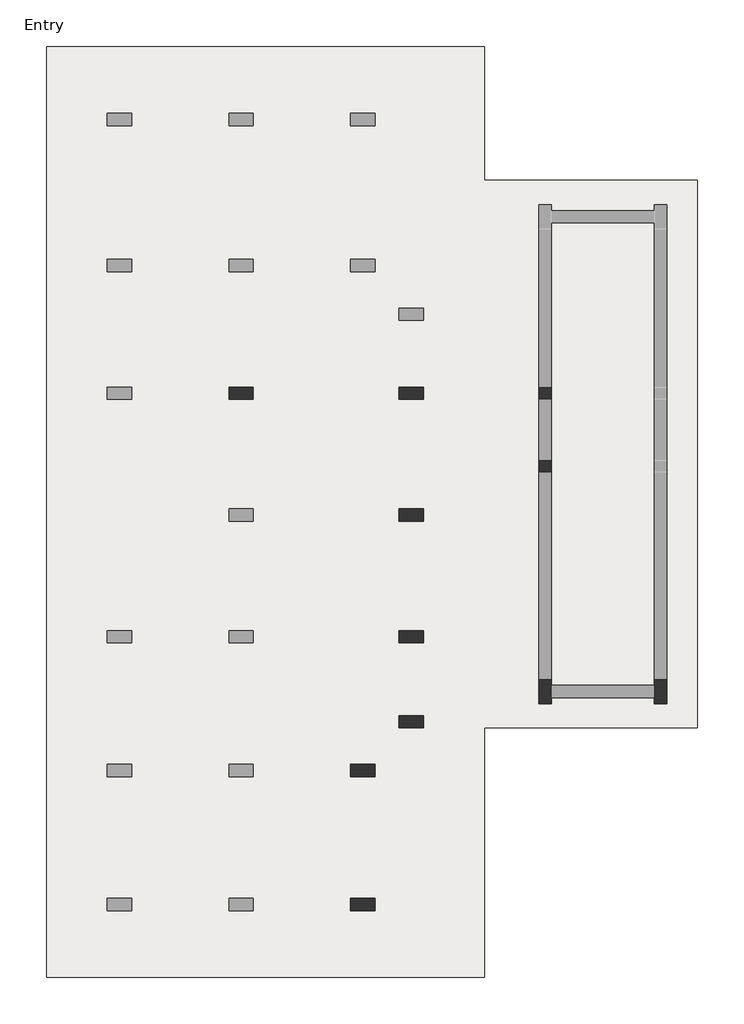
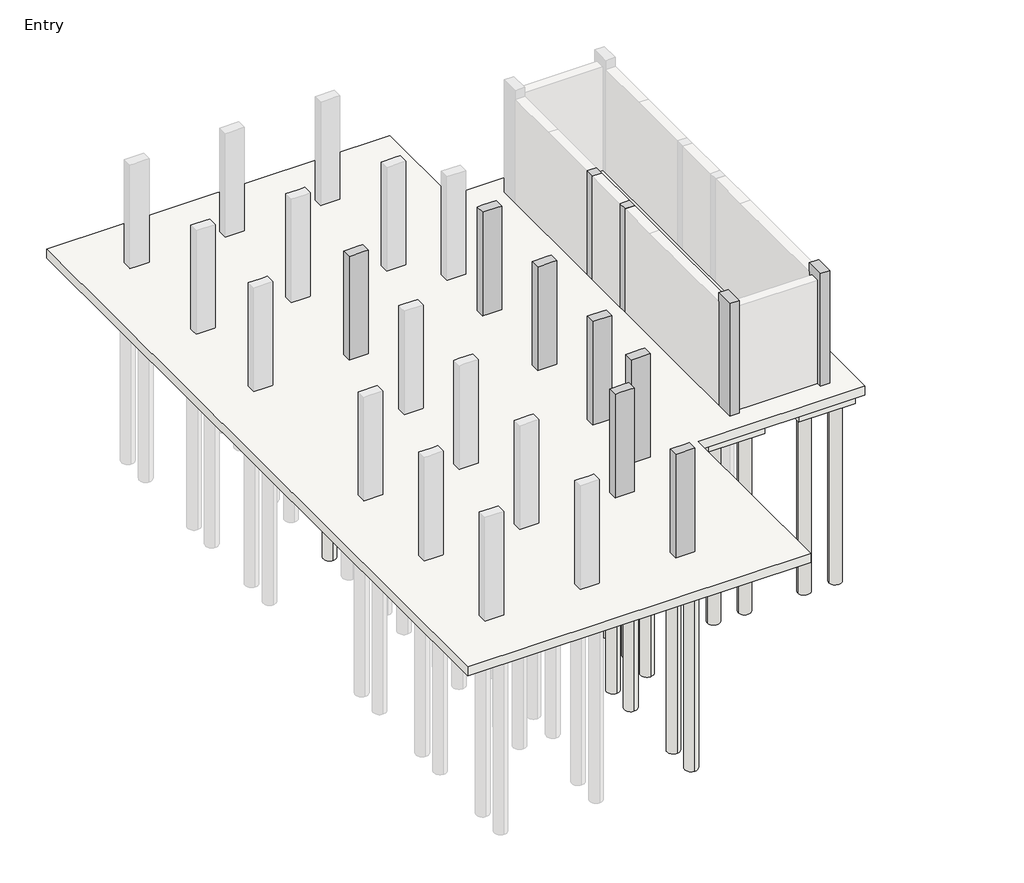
# One storey, part 2 of 3: 35 slabs, 11 columns.
"""IFC4 building model written with IfcOpenShell, lengths in millimetres."""

from ifc_helpers import new_model, si_unit, point, frame, frame_2d, origin, origin_with_axes, place, context, project, spatial, polyline, circle_curve, trimmed, segment, composite_curve, outline, extrude, faceted_brep, element, save

model = new_model("IFC4")

# Units and contexts
model_context = context("Model", 3, world=origin())
ifc_project = project(units=[si_unit("LENGTHUNIT", "METRE", prefix="MILLI")], contexts=[model_context])

# Site, building, storey
site = spatial("IfcSite", under=ifc_project)
building = spatial("IfcBuilding", under=site)
storey = spatial("IfcBuildingStorey", under=building, Name="Entry", Elevation=0.0)

# Columns
placement = place(None, origin())
element("IfcColumn", 1, ObjectType="Concrete-Rectangular-Column : 12 x 24", at=placement, inside=storey, context=model_context, shape_type="Brep", body=[
    faceted_brep([(-17912.8093661, 15543.5691779, 0.0), (-17303.2093661, 15543.5691779, 0.0), (-17303.2093661, 15238.7691779, 0.0), (-17912.8093661, 15238.7691779, 0.0), (-17912.8093661, 15543.5691779, 3505.2), (-17760.4093661, 15543.5691779, 3505.2), (-17455.6093661, 15543.5691779, 3505.2), (-17303.2093661, 15543.5691779, 3505.2), (-17303.2093661, 15543.5691779, 2895.6), (-17912.8093661, 15543.5691779, 2895.6), (-17303.2093661, 15238.7691779, 3505.2), (-17303.2093661, 15238.7691779, 2895.6), (-17455.6093661, 15238.7691779, 3505.2), (-17760.4093661, 15238.7691779, 3505.2), (-17912.8093661, 15238.7691779, 3505.2), (-17912.8093661, 15238.7691779, 2895.6)], [[[0, 1, 2, 3]], [[4, 5, 6, 7, 8, 1, 0, 9]], [[7, 10, 11, 2, 1, 8]], [[10, 12, 13, 14, 15, 3, 2, 11]], [[14, 4, 9, 0, 3, 15]], [[4, 14, 13, 12, 10, 7, 6, 5]]]),
])
element("IfcColumn", 2, ObjectType="Concrete-Rectangular-Column : 12 x 24", at=placement, inside=storey, context=model_context, shape_type="Brep", body=[
    faceted_brep([(-13645.6093661, 15543.5691779, 0.0), (-13036.0093661, 15543.5691779, 0.0), (-13036.0093661, 15238.7691779, 0.0), (-13645.6093661, 15238.7691779, 0.0), (-13645.6093661, 15543.5691779, 3505.2), (-13493.2093661, 15543.5691779, 3505.2), (-13188.4093661, 15543.5691779, 3505.2), (-13036.0093661, 15543.5691779, 3505.2), (-13036.0093661, 15543.5691779, 2895.6), (-13645.6093661, 15543.5691779, 2895.6), (-13036.0093661, 15238.7691779, 3505.2), (-13036.0093661, 15238.7691779, 2895.6), (-13188.4093661, 15238.7691779, 3505.2), (-13493.2093661, 15238.7691779, 3505.2), (-13645.6093661, 15238.7691779, 3505.2), (-13645.6093661, 15238.7691779, 2895.6)], [[[0, 1, 2, 3]], [[4, 5, 6, 7, 8, 1, 0, 9]], [[7, 10, 11, 2, 1, 8]], [[10, 12, 13, 14, 15, 3, 2, 11]], [[14, 4, 9, 0, 3, 15]], [[4, 14, 13, 12, 10, 7, 6, 5]]]),
])
element("IfcColumn", 3, ObjectType="Concrete-Rectangular-Column : 12 x 24", at=placement, inside=storey, context=model_context, shape_type="SweptSolid", body=[
    extrude(outline(polyline([(-9835.6093661, 15238.7691779), (-10140.4093661, 15238.7691779), (-10140.4093661, 15543.5691779), (-9835.6093661, 15543.5691779), (-9835.6093661, 15238.7691779)])), origin_with_axes(), (0.0, 0.0, 1.0), 3505.2),
])
element("IfcColumn", 4, ObjectType="Concrete-Rectangular-Column : 12 x 24", at=placement, inside=storey, context=model_context, shape_type="SweptSolid", body=[
    extrude(outline(polyline([(-9835.6093661, 13409.9691779), (-10140.4093661, 13409.9691779), (-10140.4093661, 13714.7691779), (-9835.6093661, 13714.7691779), (-9835.6093661, 13409.9691779)])), origin_with_axes(), (0.0, 0.0, 1.0), 3505.2),
])
element("IfcColumn", 5, ObjectType="Concrete-Rectangular-Column : 12 x 24", at=placement, inside=storey, context=model_context, shape_type="Brep", body=[
    faceted_brep([(-13645.6093661, 12495.5691779, 0.0), (-13036.0093661, 12495.5691779, 0.0), (-13036.0093661, 12190.7691779, 0.0), (-13645.6093661, 12190.7691779, 0.0), (-13645.6093661, 12495.5691779, 3505.2), (-13493.2093661, 12495.5691779, 3505.2), (-13188.4093661, 12495.5691779, 3505.2), (-13036.0093661, 12495.5691779, 3505.2), (-13645.6093661, 12495.5691779, 2895.6), (-13036.0093661, 12190.7691779, 3505.2), (-13188.4093661, 12190.7691779, 3505.2), (-13493.2093661, 12190.7691779, 3505.2), (-13645.6093661, 12190.7691779, 3505.2), (-13645.6093661, 12190.7691779, 2895.6)], [[[0, 1, 2, 3]], [[4, 5, 6, 7, 1, 0, 8]], [[7, 9, 2, 1]], [[9, 10, 11, 12, 13, 3, 2]], [[12, 4, 8, 0, 3, 13]], [[4, 12, 11, 10, 9, 7, 6, 5]]]),
])
element("IfcColumn", 6, ObjectType="Concrete-Rectangular-Column : 12 x 24", at=placement, inside=storey, context=model_context, shape_type="Brep", body=[
    faceted_brep([(-13645.6093661, 9447.5691779, 0.0), (-13036.0093661, 9447.5691779, 0.0), (-13036.0093661, 9142.7691779, 0.0), (-13645.6093661, 9142.7691779, 0.0), (-13645.6093661, 9447.5691779, 3505.2), (-13493.2093661, 9447.5691779, 3505.2), (-13188.4093661, 9447.5691779, 3505.2), (-13036.0093661, 9447.5691779, 3505.2), (-13645.6093661, 9447.5691779, 2895.6), (-13036.0093661, 9142.7691779, 3505.2), (-13188.4093661, 9142.7691779, 3505.2), (-13493.2093661, 9142.7691779, 3505.2), (-13645.6093661, 9142.7691779, 3505.2), (-13645.6093661, 9142.7691779, 2895.6)], [[[0, 1, 2, 3]], [[4, 5, 6, 7, 1, 0, 8]], [[7, 9, 2, 1]], [[9, 10, 11, 12, 13, 3, 2]], [[12, 4, 8, 0, 3, 13]], [[4, 12, 11, 10, 9, 7, 6, 5]]]),
])
element("IfcColumn", 7, ObjectType="Concrete-Rectangular-Column : 12 x 24", at=placement, inside=storey, context=model_context, shape_type="Brep", body=[
    faceted_brep([(-14864.8093661, 2741.9691779, 0.0), (-14255.2093661, 2741.9691779, 0.0), (-14255.2093661, 2437.1691779, 0.0), (-14864.8093661, 2437.1691779, 0.0), (-14864.8093661, 2741.9691779, 3505.2), (-14712.4093661, 2741.9691779, 3505.2), (-14407.6093661, 2741.9691779, 3505.2), (-14255.2093661, 2741.9691779, 3505.2), (-14864.8093661, 2741.9691779, 2895.6), (-14255.2093661, 2437.1691779, 3505.2), (-14864.8093661, 2437.1691779, 3505.2), (-14864.8093661, 2437.1691779, 2895.6)], [[[0, 1, 2, 3]], [[4, 5, 6, 7, 1, 0, 8]], [[7, 9, 2, 1]], [[9, 10, 11, 3, 2]], [[10, 4, 8, 0, 3, 11]], [[4, 10, 9, 7, 6, 5]]]),
])
element("IfcColumn", 8, ObjectType="Concrete-Rectangular-Column : 12 x 24", at=placement, inside=storey, context=model_context, shape_type="Brep", body=[
    faceted_brep([(-14864.8093661, 6094.7691779, 0.0), (-14255.2093661, 6094.7691779, 0.0), (-14255.2093661, 5789.9691779, 0.0), (-14864.8093661, 5789.9691779, 0.0), (-14864.8093661, 6094.7691779, 3505.2), (-14712.4093661, 6094.7691779, 3505.2), (-14407.6093661, 6094.7691779, 3505.2), (-14255.2093661, 6094.7691779, 3505.2), (-14864.8093661, 6094.7691779, 2895.6), (-14255.2093661, 5789.9691779, 3505.2), (-14407.6093661, 5789.9691779, 3505.2), (-14712.4093661, 5789.9691779, 3505.2), (-14864.8093661, 5789.9691779, 3505.2), (-14864.8093661, 5789.9691779, 2895.6)], [[[0, 1, 2, 3]], [[4, 5, 6, 7, 1, 0, 8]], [[7, 9, 2, 1]], [[9, 10, 11, 12, 13, 3, 2]], [[12, 4, 8, 0, 3, 13]], [[4, 12, 11, 10, 9, 7, 6, 5]]]),
])
element("IfcColumn", 9, ObjectType="Concrete-Rectangular-Column : 12 x 24", at=placement, inside=storey, context=model_context, shape_type="Brep", body=[
    faceted_brep([(-13645.6093661, 7313.9691779, 0.0), (-13036.0093661, 7313.9691779, 0.0), (-13036.0093661, 7009.1691779, 0.0), (-13645.6093661, 7009.1691779, 0.0), (-13645.6093661, 7313.9691779, 3505.2), (-13493.2093661, 7313.9691779, 3505.2), (-13188.4093661, 7313.9691779, 3505.2), (-13036.0093661, 7313.9691779, 3505.2), (-13645.6093661, 7313.9691779, 2895.6), (-13036.0093661, 7009.1691779, 3505.2), (-13645.6093661, 7009.1691779, 3505.2), (-13645.6093661, 7009.1691779, 2895.6)], [[[0, 1, 2, 3]], [[4, 5, 6, 7, 1, 0, 8]], [[7, 9, 2, 1]], [[9, 10, 11, 3, 2]], [[10, 4, 8, 0, 3, 11]], [[4, 10, 9, 7, 6, 5]]]),
])
element("IfcColumn", 10, ObjectType="Concrete-Rectangular-Column : 12 x 24", at=placement, inside=storey, context=model_context, shape_type="Brep", body=[
    faceted_brep([(-10140.4093661, 7618.7691779, 0.0), (-10140.4093661, 8228.3691779, 0.0), (-9835.6093661, 8228.3691779, 0.0), (-9835.6093661, 8075.9691779, 0.0), (-9835.6093661, 7771.1691779, 0.0), (-9835.6093661, 7618.7691779, 0.0), (-10140.4093661, 7618.7691779, 3810.0), (-10140.4093661, 8228.3691779, 3810.0), (-10140.4093661, 8228.3691779, 3505.2), (-9835.6093661, 8228.3691779, 3810.0), (-9835.6093661, 8228.3691779, 3505.2), (-9835.6093661, 7618.7691779, 3810.0)], [[[0, 1, 2, 3, 4, 5]], [[6, 7, 8, 1, 0]], [[7, 9, 10, 2, 1, 8]], [[9, 11, 5, 4, 3, 2, 10]], [[11, 6, 0, 5]], [[6, 11, 9, 7]]]),
])
element("IfcColumn", 11, ObjectType="Concrete-Rectangular-Column : 12 x 24", at=placement, inside=storey, context=model_context, shape_type="Brep", body=[
    faceted_brep([(-7244.8093661, 7618.7691779, 0.0), (-7244.8093661, 7771.1691779, 0.0), (-7244.8093661, 8075.9691779, 0.0), (-7244.8093661, 8228.3691779, 0.0), (-6940.0093661, 8228.3691779, 0.0), (-6940.0093661, 7618.7691779, 0.0), (-7244.8093661, 7618.7691779, 3810.0), (-7244.8093661, 8228.3691779, 3810.0), (-7244.8093661, 8228.3691779, 3505.2), (-6940.0093661, 8228.3691779, 3810.0), (-6940.0093661, 8228.3691779, 3505.2), (-6940.0093661, 7618.7691779, 3810.0)], [[[0, 1, 2, 3, 4, 5]], [[6, 7, 8, 3, 2, 1, 0]], [[7, 9, 10, 4, 3, 8]], [[9, 11, 5, 4, 10]], [[11, 6, 0, 5]], [[6, 11, 9, 7]]]),
])

# Slabs
element("IfcSlab", 12, ObjectType="12\" Foundation Slab", at=placement, inside=storey, context=model_context, shape_type="SweptSolid", body=[
    extrude(outline(polyline([(-11512.0093661, 24077.9691779), (-11512.0093661, 20725.1691779), (-6178.0093661, 20725.1691779), (-6178.0093661, 7009.1691779), (-11512.0093661, 7009.1691779), (-11512.0093661, 760.7691779), (-22484.8093661, 760.7691779), (-22484.8093661, 24077.9691779), (-11512.0093661, 24077.9691779)])), frame((0.0, 0.0, -304.8), z_axis=(0.0, 0.0, 1.0), x_axis=(1.0, 0.0, 0.0)), (0.0, 0.0, 1.0), 304.8),
])
element("IfcSlab", 13, ObjectType="Pile Cap-2 Pile : 31\"x61\"x35\"", at=placement, inside=storey, context=model_context, shape_type="SweptSolid", body=[
    extrude(outline(polyline([(-14966.4093661, 3491.2691779), (-14153.6093661, 3491.2691779), (-14153.6093661, 1687.8691779), (-14966.4093661, 1687.8691779), (-14966.4093661, 3491.2691779)])), frame((0.0, 0.0, -889.0), z_axis=(0.0, 0.0, 1.0), x_axis=(1.0, 0.0, 0.0)), (0.0, 0.0, 1.0), 584.2),
])
element("IfcSlab", 14, ObjectType="Pile Cap-2 Pile : 31\"x61\"x35\"", at=placement, inside=storey, context=model_context, shape_type="SweptSolid", body=[
    extrude(outline(polyline([(-14966.4093661, 6844.0691779), (-14153.6093661, 6844.0691779), (-14153.6093661, 5040.6691779), (-14966.4093661, 5040.6691779), (-14966.4093661, 6844.0691779)])), frame((0.0, 0.0, -889.0), z_axis=(0.0, 0.0, 1.0), x_axis=(1.0, 0.0, 0.0)), (0.0, 0.0, 1.0), 584.2),
])
element("IfcSlab", 15, ObjectType="Pile Cap-2 Pile : 31\"x61\"x35\"", at=placement, inside=storey, context=model_context, shape_type="SweptSolid", body=[
    extrude(outline(polyline([(-13747.2093661, 10196.8691779), (-12934.4093661, 10196.8691779), (-12934.4093661, 8393.4691779), (-13747.2093661, 8393.4691779), (-13747.2093661, 10196.8691779)])), frame((0.0, 0.0, -889.0), z_axis=(0.0, 0.0, 1.0), x_axis=(1.0, 0.0, 0.0)), (0.0, 0.0, 1.0), 584.2),
])
element("IfcSlab", 16, ObjectType="Pile Cap-2 Pile : 31\"x61\"x35\"", at=placement, inside=storey, context=model_context, shape_type="SweptSolid", body=[
    extrude(outline(polyline([(-13747.2093661, 13244.8691779), (-12934.4093661, 13244.8691779), (-12934.4093661, 11441.4691779), (-13747.2093661, 11441.4691779), (-13747.2093661, 13244.8691779)])), frame((0.0, 0.0, -889.0), z_axis=(0.0, 0.0, 1.0), x_axis=(1.0, 0.0, 0.0)), (0.0, 0.0, 1.0), 584.2),
])
element("IfcSlab", 17, ObjectType="Pile Cap-2 Pile : 31\"x61\"x35\"", at=placement, inside=storey, context=model_context, shape_type="SweptSolid", body=[
    extrude(outline(polyline([(-13747.2093661, 16292.8691779), (-12934.4093661, 16292.8691779), (-12934.4093661, 14489.4691779), (-13747.2093661, 14489.4691779), (-13747.2093661, 16292.8691779)])), frame((0.0, 0.0, -889.0), z_axis=(0.0, 0.0, 1.0), x_axis=(1.0, 0.0, 0.0)), (0.0, 0.0, 1.0), 584.2),
])
element("IfcSlab", 18, ObjectType="Pile Cap-2 Pile : 31\"x61\"x35\"", at=placement, inside=storey, context=model_context, shape_type="SweptSolid", body=[
    extrude(outline(polyline([(-10889.7093661, 7517.1691779), (-10889.7093661, 8329.9691779), (-9086.3093661, 8329.9691779), (-9086.3093661, 7517.1691779), (-10889.7093661, 7517.1691779)])), frame((0.0, 0.0, -889.0), z_axis=(0.0, 0.0, 1.0), x_axis=(1.0, 0.0, 0.0)), (0.0, 0.0, 1.0), 584.2),
])
element("IfcSlab", 19, ObjectType="Pile Cap-2 Pile : 31\"x61\"x35\"", at=placement, inside=storey, context=model_context, shape_type="SweptSolid", body=[
    extrude(outline(polyline([(-7994.1093661, 7517.1691779), (-7994.1093661, 8329.9691779), (-6190.7093661, 8329.9691779), (-6190.7093661, 7517.1691779), (-7994.1093661, 7517.1691779)])), frame((0.0, 0.0, -889.0), z_axis=(0.0, 0.0, 1.0), x_axis=(1.0, 0.0, 0.0)), (0.0, 0.0, 1.0), 584.2),
])
element("IfcSlab", 20, ObjectType="Pile Cap-2 Pile : 31\"x61\"x35\"", at=placement, inside=storey, context=model_context, shape_type="SweptSolid", body=[
    extrude(outline(polyline([(-10394.4093661, 14464.0691779), (-9581.6093661, 14464.0691779), (-9581.6093661, 12660.6691779), (-10394.4093661, 12660.6691779), (-10394.4093661, 14464.0691779)])), frame((0.0, 0.0, -889.0), z_axis=(0.0, 0.0, 1.0), x_axis=(1.0, 0.0, 0.0)), (0.0, 0.0, 1.0), 584.2),
])
element("IfcSlab", 21, ObjectType="Pile Cap-2 Pile : 31\"x61\"x35\"", at=placement, inside=storey, context=model_context, shape_type="SweptSolid", body=[
    extrude(outline(polyline([(-10394.4093661, 16292.8691779), (-9581.6093661, 16292.8691779), (-9581.6093661, 14489.4691779), (-10394.4093661, 14489.4691779), (-10394.4093661, 16292.8691779)])), frame((0.0, 0.0, -889.0), z_axis=(0.0, 0.0, 1.0), x_axis=(1.0, 0.0, 0.0)), (0.0, 0.0, 1.0), 584.2),
])
element("IfcSlab", 22, ObjectType="Pile Cap-2 Pile : 31\"x61\"x35\"", at=placement, inside=storey, context=model_context, shape_type="SweptSolid", body=[
    extrude(outline(polyline([(-13747.2093661, 8063.2691779), (-12934.4093661, 8063.2691779), (-12934.4093661, 6259.8691779), (-13747.2093661, 6259.8691779), (-13747.2093661, 8063.2691779)])), frame((0.0, 0.0, -889.0), z_axis=(0.0, 0.0, 1.0), x_axis=(1.0, 0.0, 0.0)), (0.0, 0.0, 1.0), 584.2),
])
element("IfcSlab", 23, ObjectType="Pile Cap-4 Pile : 72\"x72\"x35\"", at=placement, inside=storey, context=model_context, shape_type="SweptSolid", body=[
    extrude(outline(polyline([(-18522.4093661, 16305.5691779), (-16693.6093661, 16305.5691779), (-16693.6093661, 14476.7691779), (-18522.4093661, 14476.7691779), (-18522.4093661, 16305.5691779)])), frame((0.0, 0.0, -889.0), z_axis=(0.0, 0.0, 1.0), x_axis=(1.0, 0.0, 0.0)), (0.0, 0.0, 1.0), 584.2),
])
element("IfcSlab", 24, ObjectType="Pile-Steel Pipe : 16\" Diameter", at=placement, inside=storey, context=model_context, shape_type="SweptSolid", body=[
    extrude(outline(composite_curve([segment(trimmed(circle_curve(frame_2d((-17074.6093661, 14857.7691779)), 203.2), [point((-17074.6093661, 14654.5691779))], [point((-17074.6093661, 15060.9691779))], False, "CARTESIAN"), True, "CONTINUOUS"), segment(trimmed(circle_curve(frame_2d((-17074.6093661, 14857.7691779)), 203.2), [point((-17074.6093661, 15060.9691779))], [point((-17074.6093661, 14654.5691779))], False, "CARTESIAN"), True, "CONTINUOUS")], self_intersect=False)), frame((0.0, 0.0, -6985.0), z_axis=(0.0, 0.0, 1.0), x_axis=(1.0, 0.0, 0.0)), (0.0, 0.0, 1.0), 6096.0),
])
element("IfcSlab", 25, ObjectType="Pile-Steel Pipe : 16\" Diameter", at=placement, inside=storey, context=model_context, shape_type="SweptSolid", body=[
    extrude(outline(composite_curve([segment(trimmed(circle_curve(frame_2d((-17074.6093661, 15924.5691779)), 203.2), [point((-17074.6093661, 15721.3691779))], [point((-17074.6093661, 16127.7691779))], False, "CARTESIAN"), True, "CONTINUOUS"), segment(trimmed(circle_curve(frame_2d((-17074.6093661, 15924.5691779)), 203.2), [point((-17074.6093661, 16127.7691779))], [point((-17074.6093661, 15721.3691779))], False, "CARTESIAN"), True, "CONTINUOUS")], self_intersect=False)), frame((0.0, 0.0, -6985.0), z_axis=(0.0, 0.0, 1.0), x_axis=(1.0, 0.0, 0.0)), (0.0, 0.0, 1.0), 6096.0),
])
element("IfcSlab", 26, ObjectType="Pile-Steel Pipe : 16\" Diameter", at=placement, inside=storey, context=model_context, shape_type="SweptSolid", body=[
    extrude(outline(composite_curve([segment(trimmed(circle_curve(frame_2d((-18141.4093661, 15924.5691779)), 203.2), [point((-18141.4093661, 15721.3691779))], [point((-18141.4093661, 16127.7691779))], False, "CARTESIAN"), True, "CONTINUOUS"), segment(trimmed(circle_curve(frame_2d((-18141.4093661, 15924.5691779)), 203.2), [point((-18141.4093661, 16127.7691779))], [point((-18141.4093661, 15721.3691779))], False, "CARTESIAN"), True, "CONTINUOUS")], self_intersect=False)), frame((0.0, 0.0, -6985.0), z_axis=(0.0, 0.0, 1.0), x_axis=(1.0, 0.0, 0.0)), (0.0, 0.0, 1.0), 6096.0),
])
element("IfcSlab", 27, ObjectType="Pile-Steel Pipe : 16\" Diameter", at=placement, inside=storey, context=model_context, shape_type="SweptSolid", body=[
    extrude(outline(composite_curve([segment(trimmed(circle_curve(frame_2d((-14560.0093661, 3084.8691779)), 203.2), [point((-14560.0093661, 2881.6691779))], [point((-14560.0093661, 3288.0691779))], False, "CARTESIAN"), True, "CONTINUOUS"), segment(trimmed(circle_curve(frame_2d((-14560.0093661, 3084.8691779)), 203.2), [point((-14560.0093661, 3288.0691779))], [point((-14560.0093661, 2881.6691779))], False, "CARTESIAN"), True, "CONTINUOUS")], self_intersect=False)), frame((0.0, 0.0, -6985.0), z_axis=(0.0, 0.0, 1.0), x_axis=(1.0, 0.0, 0.0)), (0.0, 0.0, 1.0), 6096.0),
])
element("IfcSlab", 28, ObjectType="Pile-Steel Pipe : 16\" Diameter", at=placement, inside=storey, context=model_context, shape_type="SweptSolid", body=[
    extrude(outline(composite_curve([segment(trimmed(circle_curve(frame_2d((-14560.0093661, 2094.2691779)), 203.2), [point((-14560.0093661, 1891.0691779))], [point((-14560.0093661, 2297.4691779))], False, "CARTESIAN"), True, "CONTINUOUS"), segment(trimmed(circle_curve(frame_2d((-14560.0093661, 2094.2691779)), 203.2), [point((-14560.0093661, 2297.4691779))], [point((-14560.0093661, 1891.0691779))], False, "CARTESIAN"), True, "CONTINUOUS")], self_intersect=False)), frame((0.0, 0.0, -6985.0), z_axis=(0.0, 0.0, 1.0), x_axis=(1.0, 0.0, 0.0)), (0.0, 0.0, 1.0), 6096.0),
])
element("IfcSlab", 29, ObjectType="Pile-Steel Pipe : 16\" Diameter", at=placement, inside=storey, context=model_context, shape_type="SweptSolid", body=[
    extrude(outline(composite_curve([segment(trimmed(circle_curve(frame_2d((-14560.0093661, 6437.6691779)), 203.2), [point((-14560.0093661, 6234.4691779))], [point((-14560.0093661, 6640.8691779))], False, "CARTESIAN"), True, "CONTINUOUS"), segment(trimmed(circle_curve(frame_2d((-14560.0093661, 6437.6691779)), 203.2), [point((-14560.0093661, 6640.8691779))], [point((-14560.0093661, 6234.4691779))], False, "CARTESIAN"), True, "CONTINUOUS")], self_intersect=False)), frame((0.0, 0.0, -6985.0), z_axis=(0.0, 0.0, 1.0), x_axis=(1.0, 0.0, 0.0)), (0.0, 0.0, 1.0), 6096.0),
])
element("IfcSlab", 30, ObjectType="Pile-Steel Pipe : 16\" Diameter", at=placement, inside=storey, context=model_context, shape_type="SweptSolid", body=[
    extrude(outline(composite_curve([segment(trimmed(circle_curve(frame_2d((-14560.0093661, 5447.0691779)), 203.2), [point((-14560.0093661, 5243.8691779))], [point((-14560.0093661, 5650.2691779))], False, "CARTESIAN"), True, "CONTINUOUS"), segment(trimmed(circle_curve(frame_2d((-14560.0093661, 5447.0691779)), 203.2), [point((-14560.0093661, 5650.2691779))], [point((-14560.0093661, 5243.8691779))], False, "CARTESIAN"), True, "CONTINUOUS")], self_intersect=False)), frame((0.0, 0.0, -6985.0), z_axis=(0.0, 0.0, 1.0), x_axis=(1.0, 0.0, 0.0)), (0.0, 0.0, 1.0), 6096.0),
])
element("IfcSlab", 31, ObjectType="Pile-Steel Pipe : 16\" Diameter", at=placement, inside=storey, context=model_context, shape_type="SweptSolid", body=[
    extrude(outline(composite_curve([segment(trimmed(circle_curve(frame_2d((-13340.8093661, 9790.4691779)), 203.2), [point((-13340.8093661, 9587.2691779))], [point((-13340.8093661, 9993.6691779))], False, "CARTESIAN"), True, "CONTINUOUS"), segment(trimmed(circle_curve(frame_2d((-13340.8093661, 9790.4691779)), 203.2), [point((-13340.8093661, 9993.6691779))], [point((-13340.8093661, 9587.2691779))], False, "CARTESIAN"), True, "CONTINUOUS")], self_intersect=False)), frame((0.0, 0.0, -6985.0), z_axis=(0.0, 0.0, 1.0), x_axis=(1.0, 0.0, 0.0)), (0.0, 0.0, 1.0), 6096.0),
])
element("IfcSlab", 32, ObjectType="Pile-Steel Pipe : 16\" Diameter", at=placement, inside=storey, context=model_context, shape_type="SweptSolid", body=[
    extrude(outline(composite_curve([segment(trimmed(circle_curve(frame_2d((-13340.8093661, 8799.8691779)), 203.2), [point((-13340.8093661, 8596.6691779))], [point((-13340.8093661, 9003.0691779))], False, "CARTESIAN"), True, "CONTINUOUS"), segment(trimmed(circle_curve(frame_2d((-13340.8093661, 8799.8691779)), 203.2), [point((-13340.8093661, 9003.0691779))], [point((-13340.8093661, 8596.6691779))], False, "CARTESIAN"), True, "CONTINUOUS")], self_intersect=False)), frame((0.0, 0.0, -6985.0), z_axis=(0.0, 0.0, 1.0), x_axis=(1.0, 0.0, 0.0)), (0.0, 0.0, 1.0), 6096.0),
])
element("IfcSlab", 33, ObjectType="Pile-Steel Pipe : 16\" Diameter", at=placement, inside=storey, context=model_context, shape_type="SweptSolid", body=[
    extrude(outline(composite_curve([segment(trimmed(circle_curve(frame_2d((-13340.8093661, 12838.4691779)), 203.2), [point((-13340.8093661, 12635.2691779))], [point((-13340.8093661, 13041.6691779))], False, "CARTESIAN"), True, "CONTINUOUS"), segment(trimmed(circle_curve(frame_2d((-13340.8093661, 12838.4691779)), 203.2), [point((-13340.8093661, 13041.6691779))], [point((-13340.8093661, 12635.2691779))], False, "CARTESIAN"), True, "CONTINUOUS")], self_intersect=False)), frame((0.0, 0.0, -6985.0), z_axis=(0.0, 0.0, 1.0), x_axis=(1.0, 0.0, 0.0)), (0.0, 0.0, 1.0), 6096.0),
])
element("IfcSlab", 34, ObjectType="Pile-Steel Pipe : 16\" Diameter", at=placement, inside=storey, context=model_context, shape_type="SweptSolid", body=[
    extrude(outline(composite_curve([segment(trimmed(circle_curve(frame_2d((-13340.8093661, 11847.8691779)), 203.2), [point((-13340.8093661, 11644.6691779))], [point((-13340.8093661, 12051.0691779))], False, "CARTESIAN"), True, "CONTINUOUS"), segment(trimmed(circle_curve(frame_2d((-13340.8093661, 11847.8691779)), 203.2), [point((-13340.8093661, 12051.0691779))], [point((-13340.8093661, 11644.6691779))], False, "CARTESIAN"), True, "CONTINUOUS")], self_intersect=False)), frame((0.0, 0.0, -6985.0), z_axis=(0.0, 0.0, 1.0), x_axis=(1.0, 0.0, 0.0)), (0.0, 0.0, 1.0), 6096.0),
])
element("IfcSlab", 35, ObjectType="Pile-Steel Pipe : 16\" Diameter", at=placement, inside=storey, context=model_context, shape_type="SweptSolid", body=[
    extrude(outline(composite_curve([segment(trimmed(circle_curve(frame_2d((-13340.8093661, 15886.4691779)), 203.2), [point((-13340.8093661, 15683.2691779))], [point((-13340.8093661, 16089.6691779))], False, "CARTESIAN"), True, "CONTINUOUS"), segment(trimmed(circle_curve(frame_2d((-13340.8093661, 15886.4691779)), 203.2), [point((-13340.8093661, 16089.6691779))], [point((-13340.8093661, 15683.2691779))], False, "CARTESIAN"), True, "CONTINUOUS")], self_intersect=False)), frame((0.0, 0.0, -6985.0), z_axis=(0.0, 0.0, 1.0), x_axis=(1.0, 0.0, 0.0)), (0.0, 0.0, 1.0), 6096.0),
])
element("IfcSlab", 36, ObjectType="Pile-Steel Pipe : 16\" Diameter", at=placement, inside=storey, context=model_context, shape_type="SweptSolid", body=[
    extrude(outline(composite_curve([segment(trimmed(circle_curve(frame_2d((-13340.8093661, 14895.8691779)), 203.2), [point((-13340.8093661, 14692.6691779))], [point((-13340.8093661, 15099.0691779))], False, "CARTESIAN"), True, "CONTINUOUS"), segment(trimmed(circle_curve(frame_2d((-13340.8093661, 14895.8691779)), 203.2), [point((-13340.8093661, 15099.0691779))], [point((-13340.8093661, 14692.6691779))], False, "CARTESIAN"), True, "CONTINUOUS")], self_intersect=False)), frame((0.0, 0.0, -6985.0), z_axis=(0.0, 0.0, 1.0), x_axis=(1.0, 0.0, 0.0)), (0.0, 0.0, 1.0), 6096.0),
])
element("IfcSlab", 37, ObjectType="Pile-Steel Pipe : 16\" Diameter", at=placement, inside=storey, context=model_context, shape_type="SweptSolid", body=[
    extrude(outline(composite_curve([segment(trimmed(circle_curve(frame_2d((-10483.3093661, 7923.5691779)), 203.2), [point((-10280.1093661, 7923.5691779))], [point((-10686.5093661, 7923.5691779))], False, "CARTESIAN"), True, "CONTINUOUS"), segment(trimmed(circle_curve(frame_2d((-10483.3093661, 7923.5691779)), 203.2), [point((-10686.5093661, 7923.5691779))], [point((-10280.1093661, 7923.5691779))], False, "CARTESIAN"), True, "CONTINUOUS")], self_intersect=False)), frame((0.0, 0.0, -6985.0), z_axis=(0.0, 0.0, 1.0), x_axis=(1.0, 0.0, 0.0)), (0.0, 0.0, 1.0), 6096.0),
])
element("IfcSlab", 38, ObjectType="Pile-Steel Pipe : 16\" Diameter", at=placement, inside=storey, context=model_context, shape_type="SweptSolid", body=[
    extrude(outline(composite_curve([segment(trimmed(circle_curve(frame_2d((-9492.7093661, 7923.5691779)), 203.2), [point((-9289.5093661, 7923.5691779))], [point((-9695.9093661, 7923.5691779))], False, "CARTESIAN"), True, "CONTINUOUS"), segment(trimmed(circle_curve(frame_2d((-9492.7093661, 7923.5691779)), 203.2), [point((-9695.9093661, 7923.5691779))], [point((-9289.5093661, 7923.5691779))], False, "CARTESIAN"), True, "CONTINUOUS")], self_intersect=False)), frame((0.0, 0.0, -6985.0), z_axis=(0.0, 0.0, 1.0), x_axis=(1.0, 0.0, 0.0)), (0.0, 0.0, 1.0), 6096.0),
])
element("IfcSlab", 39, ObjectType="Pile-Steel Pipe : 16\" Diameter", at=placement, inside=storey, context=model_context, shape_type="SweptSolid", body=[
    extrude(outline(composite_curve([segment(trimmed(circle_curve(frame_2d((-7587.7093661, 7923.5691779)), 203.2), [point((-7384.5093661, 7923.5691779))], [point((-7790.9093661, 7923.5691779))], False, "CARTESIAN"), True, "CONTINUOUS"), segment(trimmed(circle_curve(frame_2d((-7587.7093661, 7923.5691779)), 203.2), [point((-7790.9093661, 7923.5691779))], [point((-7384.5093661, 7923.5691779))], False, "CARTESIAN"), True, "CONTINUOUS")], self_intersect=False)), frame((0.0, 0.0, -6985.0), z_axis=(0.0, 0.0, 1.0), x_axis=(1.0, 0.0, 0.0)), (0.0, 0.0, 1.0), 6096.0),
])
element("IfcSlab", 40, ObjectType="Pile-Steel Pipe : 16\" Diameter", at=placement, inside=storey, context=model_context, shape_type="SweptSolid", body=[
    extrude(outline(composite_curve([segment(trimmed(circle_curve(frame_2d((-6597.1093661, 7923.5691779)), 203.2), [point((-6393.9093661, 7923.5691779))], [point((-6800.3093661, 7923.5691779))], False, "CARTESIAN"), True, "CONTINUOUS"), segment(trimmed(circle_curve(frame_2d((-6597.1093661, 7923.5691779)), 203.2), [point((-6800.3093661, 7923.5691779))], [point((-6393.9093661, 7923.5691779))], False, "CARTESIAN"), True, "CONTINUOUS")], self_intersect=False)), frame((0.0, 0.0, -6985.0), z_axis=(0.0, 0.0, 1.0), x_axis=(1.0, 0.0, 0.0)), (0.0, 0.0, 1.0), 6096.0),
])
element("IfcSlab", 41, ObjectType="Pile-Steel Pipe : 16\" Diameter", at=placement, inside=storey, context=model_context, shape_type="SweptSolid", body=[
    extrude(outline(composite_curve([segment(trimmed(circle_curve(frame_2d((-9988.0093661, 14057.6691779)), 203.2), [point((-9988.0093661, 13854.4691779))], [point((-9988.0093661, 14260.8691779))], False, "CARTESIAN"), True, "CONTINUOUS"), segment(trimmed(circle_curve(frame_2d((-9988.0093661, 14057.6691779)), 203.2), [point((-9988.0093661, 14260.8691779))], [point((-9988.0093661, 13854.4691779))], False, "CARTESIAN"), True, "CONTINUOUS")], self_intersect=False)), frame((0.0, 0.0, -6985.0), z_axis=(0.0, 0.0, 1.0), x_axis=(1.0, 0.0, 0.0)), (0.0, 0.0, 1.0), 6096.0),
])
element("IfcSlab", 42, ObjectType="Pile-Steel Pipe : 16\" Diameter", at=placement, inside=storey, context=model_context, shape_type="SweptSolid", body=[
    extrude(outline(composite_curve([segment(trimmed(circle_curve(frame_2d((-9988.0093661, 13067.0691779)), 203.2), [point((-9988.0093661, 12863.8691779))], [point((-9988.0093661, 13270.2691779))], False, "CARTESIAN"), True, "CONTINUOUS"), segment(trimmed(circle_curve(frame_2d((-9988.0093661, 13067.0691779)), 203.2), [point((-9988.0093661, 13270.2691779))], [point((-9988.0093661, 12863.8691779))], False, "CARTESIAN"), True, "CONTINUOUS")], self_intersect=False)), frame((0.0, 0.0, -6985.0), z_axis=(0.0, 0.0, 1.0), x_axis=(1.0, 0.0, 0.0)), (0.0, 0.0, 1.0), 6096.0),
])
element("IfcSlab", 43, ObjectType="Pile-Steel Pipe : 16\" Diameter", at=placement, inside=storey, context=model_context, shape_type="SweptSolid", body=[
    extrude(outline(composite_curve([segment(trimmed(circle_curve(frame_2d((-9988.0093661, 15886.4691779)), 203.2), [point((-9988.0093661, 15683.2691779))], [point((-9988.0093661, 16089.6691779))], False, "CARTESIAN"), True, "CONTINUOUS"), segment(trimmed(circle_curve(frame_2d((-9988.0093661, 15886.4691779)), 203.2), [point((-9988.0093661, 16089.6691779))], [point((-9988.0093661, 15683.2691779))], False, "CARTESIAN"), True, "CONTINUOUS")], self_intersect=False)), frame((0.0, 0.0, -6985.0), z_axis=(0.0, 0.0, 1.0), x_axis=(1.0, 0.0, 0.0)), (0.0, 0.0, 1.0), 6096.0),
])
element("IfcSlab", 44, ObjectType="Pile-Steel Pipe : 16\" Diameter", at=placement, inside=storey, context=model_context, shape_type="SweptSolid", body=[
    extrude(outline(composite_curve([segment(trimmed(circle_curve(frame_2d((-9988.0093661, 14895.8691779)), 203.2), [point((-9988.0093661, 14692.6691779))], [point((-9988.0093661, 15099.0691779))], False, "CARTESIAN"), True, "CONTINUOUS"), segment(trimmed(circle_curve(frame_2d((-9988.0093661, 14895.8691779)), 203.2), [point((-9988.0093661, 15099.0691779))], [point((-9988.0093661, 14692.6691779))], False, "CARTESIAN"), True, "CONTINUOUS")], self_intersect=False)), frame((0.0, 0.0, -6985.0), z_axis=(0.0, 0.0, 1.0), x_axis=(1.0, 0.0, 0.0)), (0.0, 0.0, 1.0), 6096.0),
])
element("IfcSlab", 45, ObjectType="Pile-Steel Pipe : 16\" Diameter", at=placement, inside=storey, context=model_context, shape_type="SweptSolid", body=[
    extrude(outline(composite_curve([segment(trimmed(circle_curve(frame_2d((-13340.8093661, 7656.8691779)), 203.2), [point((-13340.8093661, 7453.6691779))], [point((-13340.8093661, 7860.0691779))], False, "CARTESIAN"), True, "CONTINUOUS"), segment(trimmed(circle_curve(frame_2d((-13340.8093661, 7656.8691779)), 203.2), [point((-13340.8093661, 7860.0691779))], [point((-13340.8093661, 7453.6691779))], False, "CARTESIAN"), True, "CONTINUOUS")], self_intersect=False)), frame((0.0, 0.0, -6985.0), z_axis=(0.0, 0.0, 1.0), x_axis=(1.0, 0.0, 0.0)), (0.0, 0.0, 1.0), 6096.0),
])
element("IfcSlab", 46, ObjectType="Pile-Steel Pipe : 16\" Diameter", at=placement, inside=storey, context=model_context, shape_type="SweptSolid", body=[
    extrude(outline(composite_curve([segment(trimmed(circle_curve(frame_2d((-13340.8093661, 6666.2691779)), 203.2), [point((-13340.8093661, 6463.0691779))], [point((-13340.8093661, 6869.4691779))], False, "CARTESIAN"), True, "CONTINUOUS"), segment(trimmed(circle_curve(frame_2d((-13340.8093661, 6666.2691779)), 203.2), [point((-13340.8093661, 6869.4691779))], [point((-13340.8093661, 6463.0691779))], False, "CARTESIAN"), True, "CONTINUOUS")], self_intersect=False)), frame((0.0, 0.0, -6985.0), z_axis=(0.0, 0.0, 1.0), x_axis=(1.0, 0.0, 0.0)), (0.0, 0.0, 1.0), 6096.0),
])

save(model, "model.ifc")
